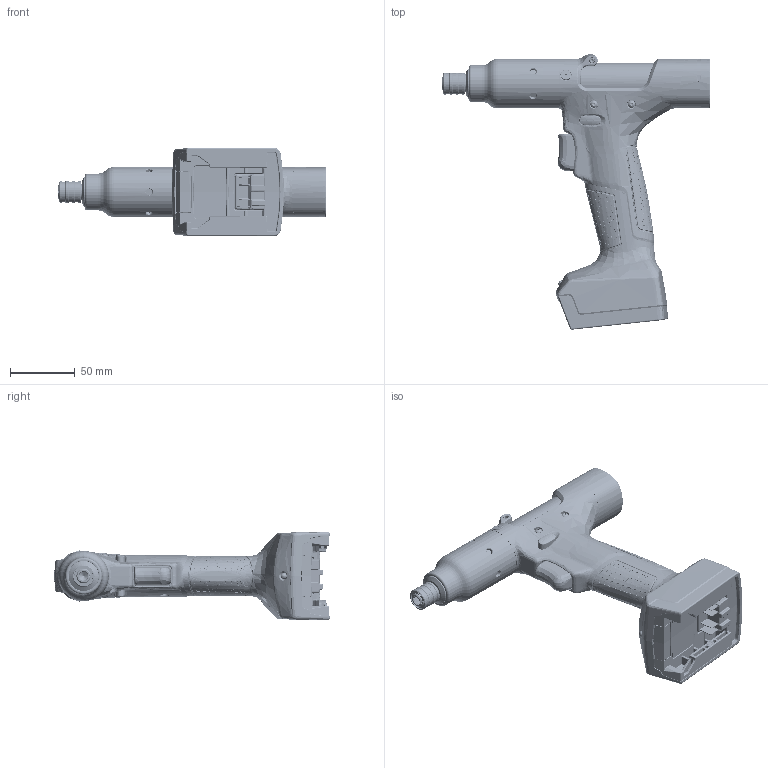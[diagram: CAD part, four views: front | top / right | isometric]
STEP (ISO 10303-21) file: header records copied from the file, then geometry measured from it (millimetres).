
FILE_DESCRIPTION((''),'2;1');
FILE_NAME('CTBPW10Q_ASM','2019-12-06T',('A1X81'),(''),'CREO PARAMETRIC BY PTC INC, 2016050','CREO PARAMETRIC BY PTC INC, 2016050','');
FILE_SCHEMA(('CONFIG_CONTROL_DESIGN'));
Length unit declared in the file: millimetre
Products named in the file (51): T50-1000491; T50-1000492; M30X226S; T50-1000492_ASM; T50-1000583; T50-3000227_ASM; T50-1000829; 931791; T50-3000458_ASM; T50-1000349-1; T50-1000349-2; T50-1000349-3; T50-1000349-4; T50-1000349-5; T50-1000349_ASM; T55-1000071_ASM; T50-1000257; 207914PT; T50-3000139_ASM; T50-1000604; WP154A4; T55-1000060_ASM; T50-1000665; T50-1000665-B; T50-1000665_ASM; T50-3000358_ASM; T50-1000580; T50-1000568; T50-1000569; AKTSC62K; T55-3000014_ASM; T50-1000567; T50-1000327-5; T50-3000228_ASM; T50-1000327-4; T50-1000327-3; T50-1000721; T50-1001028; T50-3000370_ASM; T50-1000519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
Assembly tree (73 placements, depth 5):
  CTBPW10Q_ASM
    T50-3000370_ASM
      T50-1000491
      T50-1000492_ASM
        T50-1000492
        M30X226S  x7
      T50-3000227_ASM
        T50-1000583
      T50-3000458_ASM
        T50-1000829
        931791  x2
      T55-1000071_ASM
        T50-1000349_ASM
          T50-1000349-1
          T50-1000349-2
          T50-1000349-3
          T50-1000349-4
          T50-1000349-5
      T50-3000139_ASM  x2
        T50-1000257
        207914PT
      T50-1000604
      T55-1000060_ASM
        WP154A4
      T50-3000358_ASM
        T50-1000665_ASM
          T50-1000665
          T50-1000665-B
      T50-3000228_ASM
        T50-1000580
        T50-1000568
        T50-1000569
        T55-3000014_ASM
          AKTSC62K  x3
        T50-1000567  x2
        T50-1000327-5  x2
      T50-1000327-4  x6
      T50-1000327-3  x5
      T50-1000721  x2
      T50-1001028  x2
    T50-3000215_ASM
      T50-1000519
      541902
      541914
      833688
      536592
      540800
      503009
      T50-1000562
    T50-1000722_INSTALLED
    T50-1000832
Bounding box: 207.34 x 213.14 x 68.68 mm (x, y, z)
Volume: 208955 mm3; surface area: 182916.4 mm2
Topology: 61 solids, 61 shells, 11025 faces, 25568 edges, 14864 vertices
Faces by surface type: bspline 5527, cylinder 2256, plane 1481, cone 590, torus 574, sphere 481, extrusion 116
Entity records: 586127 total; most frequent: CARTESIAN_POINT 394760, ORIENTED_EDGE 46398, DIRECTION 29610, EDGE_CURVE 23199, VERTEX_POINT 13498, AXIS2_PLACEMENT_3D 11867, B_SPLINE_CURVE_WITH_KNOTS 10482, EDGE_LOOP 10313
